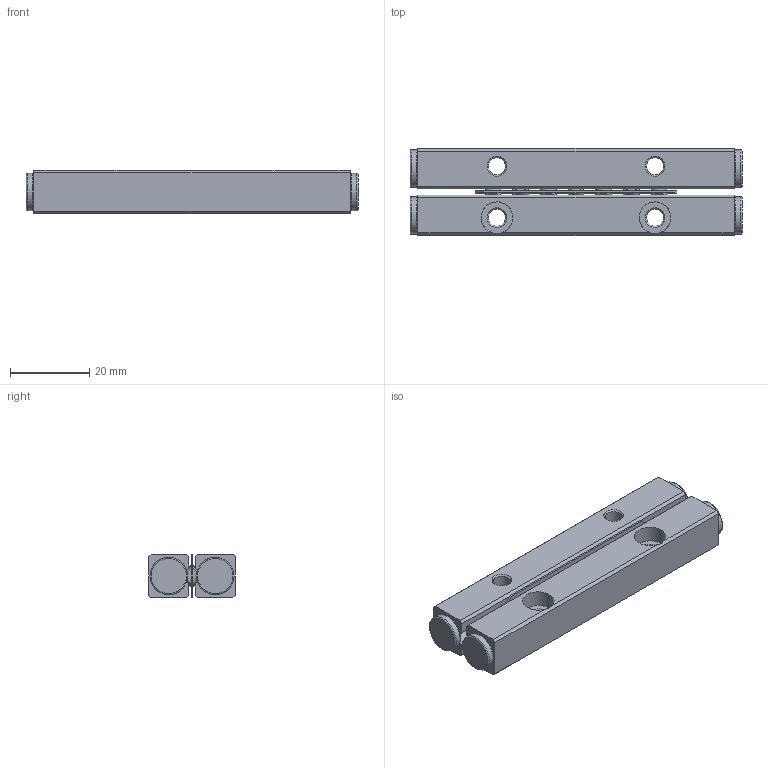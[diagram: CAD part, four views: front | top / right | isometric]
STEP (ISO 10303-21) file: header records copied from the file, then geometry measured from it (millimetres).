
FILE_DESCRIPTION(/* description */ ('STEP AP214'),/* implementation_level */ '2;1');
FILE_NAME(/* name */ 'VR4-80HX7Z(0)',/* time_stamp */ '2024-09-19T07:47:37+02:00',/* author */ ('License CC BY-ND 4.0'),/* organization */ ('CADENAS'),/* preprocessor_version */ 'ST-DEVELOPER v19.3',/* originating_system */ 'PARTsolutions',/* authorisation */ ' ');
FILE_SCHEMA (('AUTOMOTIVE_DESIGN {1 0 10303 214 3 1 1}'));
Length unit declared in the file: millimetre
Products named in the file (4): VR4-80HX7Z(0); VR4-80*7Z Roller guide; VR4-80*7Z Roller cage; VR4-80*7Z Roller guide; Top
Assembly tree (3 placements, depth 2):
  VR4-80HX7Z(0)
    VR4-80*7Z Roller guide
    VR4-80*7Z Roller cage
    VR4-80*7Z Roller guide; Top
Bounding box: 84 x 22 x 11 mm (x, y, z)
Volume: 17010.1 mm3; surface area: 9580.9 mm2
Topology: 3 solids, 3 shells, 153 faces, 403 edges, 256 vertices
Faces by surface type: plane 104, cone 22, cylinder 19, torus 8
Full cylindrical faces by diameter (mm): 4 x7, 4.3 x4, 8 x4, 9.5 x4
Entity records: 4533 total; most frequent: DIRECTION 764, CARTESIAN_POINT 751, ORIENTED_EDGE 692, EDGE_CURVE 346, AXIS2_PLACEMENT_3D 261, VERTEX_POINT 248, LINE 242, VECTOR 242
